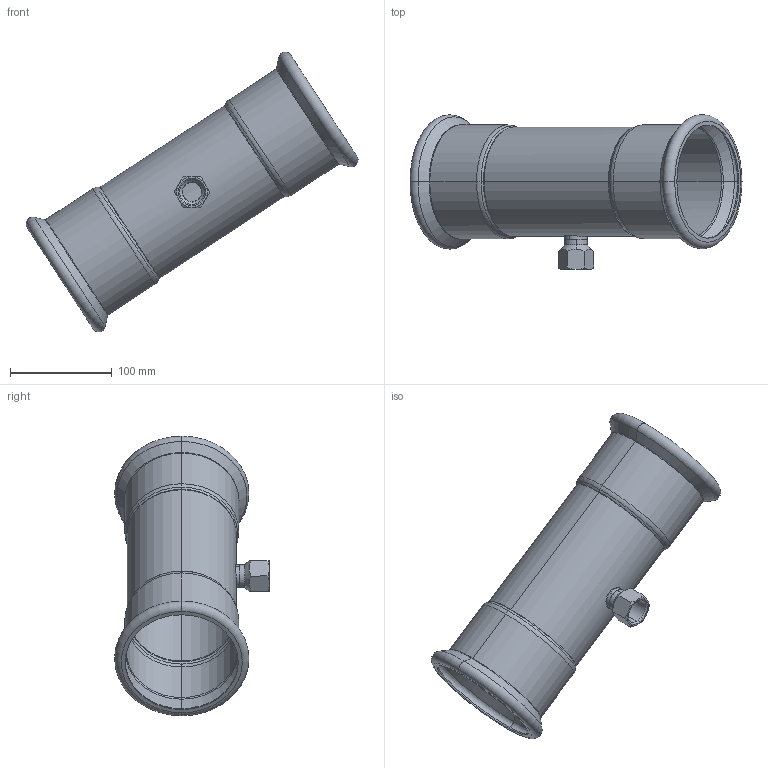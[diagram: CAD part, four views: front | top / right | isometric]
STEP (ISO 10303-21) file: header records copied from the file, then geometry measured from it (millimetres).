
FILE_DESCRIPTION (( 'STEP AP203' ), '1' );
FILE_NAME ('GDA5260.STEP', '2019-01-21T12:15:44', ( '' ), ( '' ), 'SwSTEP 2.0', 'SolidWorks 2015', '' );
FILE_SCHEMA (( 'CONFIG_CONTROL_DESIGN' ));
Length unit declared in the file: millimetre
Products named in the file (3): T(R)-Ⅰ-108×22''; ITC-I-03-22℅?; GDA5260
Assembly tree (2 placements, depth 2):
  GDA5260
    ITC-I-03-22℅?
    T(R)-Ⅰ-108×22''
Bounding box: 325.74 x 151.89 x 274.35 mm (x, y, z)
Volume: 178909.5 mm3; surface area: 235209.8 mm2
Topology: 2 solids, 2 shells, 103 faces, 218 edges, 122 vertices
Faces by surface type: torus 32, cone 28, cylinder 26, plane 13, bspline 4
Entity records: 4103 total; most frequent: CARTESIAN_POINT 1570, DIRECTION 526, ORIENTED_EDGE 436, AXIS2_PLACEMENT_3D 236, EDGE_CURVE 218, CIRCLE 132, VERTEX_POINT 122, EDGE_LOOP 112
